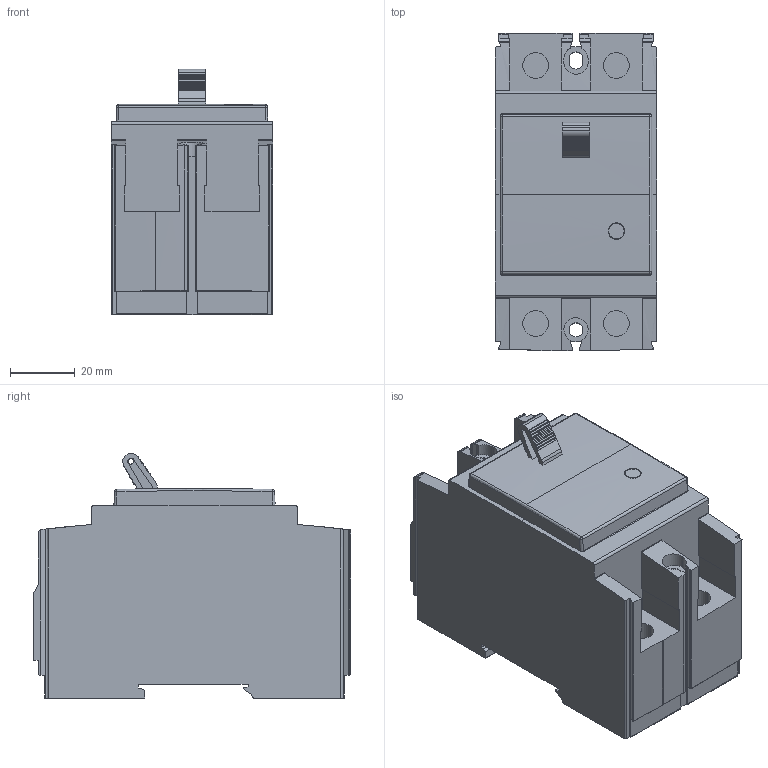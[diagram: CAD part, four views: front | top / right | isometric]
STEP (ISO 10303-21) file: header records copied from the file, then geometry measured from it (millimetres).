
FILE_DESCRIPTION (( 'STEP AP203' ), '1' );
FILE_NAME ('BE Type 2P (60A 檜鼻).STEP', '2018-01-04T00:39:10', ( '' ), ( '' ), 'SwSTEP 2.0', 'SolidWorks 2015', '' );
FILE_SCHEMA (( 'CONFIG_CONTROL_DESIGN' ));
Length unit declared in the file: millimetre
Products named in the file (1): BE Type 2P (60A 檜鼻)
Bounding box: 50 x 98.44 x 76.11 mm (x, y, z)
Volume: 251868.8 mm3; surface area: 36678 mm2
Topology: 1 solids, 1 shells, 332 faces, 955 edges, 632 vertices
Faces by surface type: plane 203, cylinder 112, bspline 9, sphere 4, torus 4
Entity records: 11392 total; most frequent: CARTESIAN_POINT 2561, ORIENTED_EDGE 1910, DIRECTION 1756, EDGE_CURVE 955, LINE 652, VECTOR 652, VERTEX_POINT 632, AXIS2_PLACEMENT_3D 552
